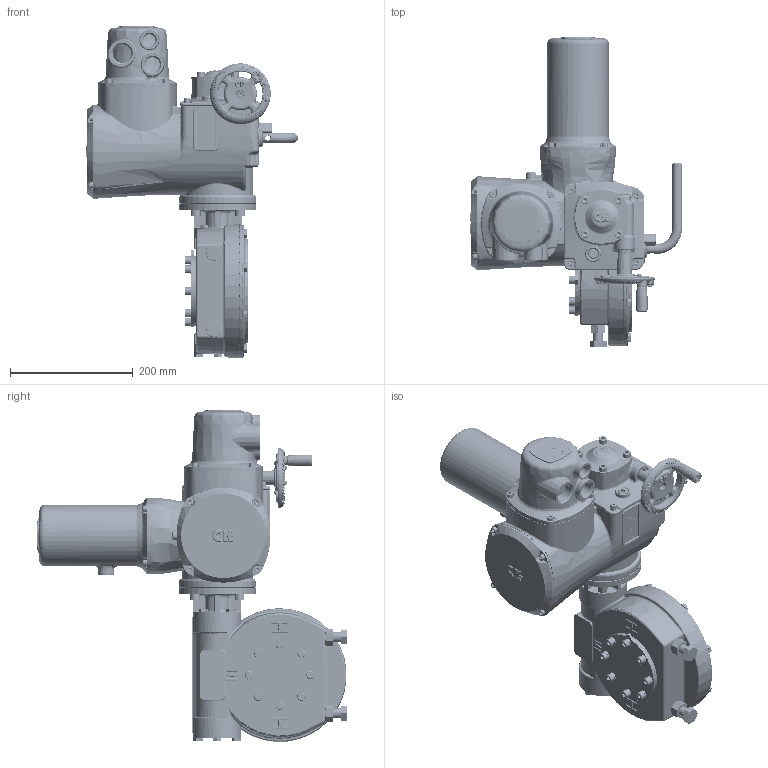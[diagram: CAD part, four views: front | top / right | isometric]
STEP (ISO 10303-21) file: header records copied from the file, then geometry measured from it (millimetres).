
FILE_DESCRIPTION(/* description */ ('Unknown','CAx-IF Rec.Pracs.---Representation and Presentation of Product Manufacturing Information (PMI)---4.0---2014-10-13','CAx-IF Rec.Pracs.---3D Tessellated Geometry---0.4---2014-09-14','2;1'),/* implementation_level */ '2;1');
FILE_NAME(/* name */ 'A1W4N0SS00X-1',/* time_stamp */ '2017-08-28T14:15:47+06:00',/* author */ ('Unknown'),/* organization */ ('Unknown'),/* preprocessor_version */ 'ST-DEVELOPER v16.7',/* originating_system */ 'DEX',/* authorisation */ $);
FILE_SCHEMA (('AP242_MANAGED_MODEL_BASED_3D_ENGINEERING_MIM_LF { 1 0 10303 442 20130219 1 4 }'));
Products named in the file (8): A1W4N0SS00X; CK1-01; CK1-04-NRS; CK1-05; CK0-07-S; CK0-20 Terminal Cover; F10- Non Thrust; IW4-F10-F14
Assembly tree (7 placements, depth 2):
  A1W4N0SS00X
    CK1-01
    CK1-04-NRS
    CK1-05
    CK0-07-S
    CK0-20 Terminal Cover
    F10- Non Thrust
    IW4-F10-F14
Bounding box: 344.96 x 505.62 x 540.62 mm (x, y, z)
Volume: 12745671.6 mm3; surface area: 785680.8 mm2
Topology: 11 solids, 41 shells, 6960 faces, 16987 edges, 10407 vertices
Faces by surface type: plane 3312, bspline 1889, cylinder 807, cone 413, sphere 270, torus 269
Full cylindrical faces by diameter (mm): 3 x2, 4 x2, 4.917 x4, 6 x4, 6.4 x1, 6.45 x4, 6.47 x4, 6.5 x4, 6.647 x1, 7 x2, 8 x26, 8.1 x8, 8.2 x1, 8.376 x4, 8.5 x20, 8.7 x8, 9 x12, 10 x19, 10.22 x4, 10.8 x4, 12 x1, 13 x18, 13.5 x17, 13.835 x4, 14 x3, 14.5 x4, 15.5 x1, 16 x11, 18.376 x1, 19 x1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
Entity records: 308946 total; most frequent: CARTESIAN_POINT 118428, ORIENTED_EDGE 32396, DIRECTION 23327, EDGE_CURVE 16198, VERTEX_POINT 10186, AXIS2_PLACEMENT_3D 8637, FACE_BOUND 7894, EDGE_LOOP 7869
